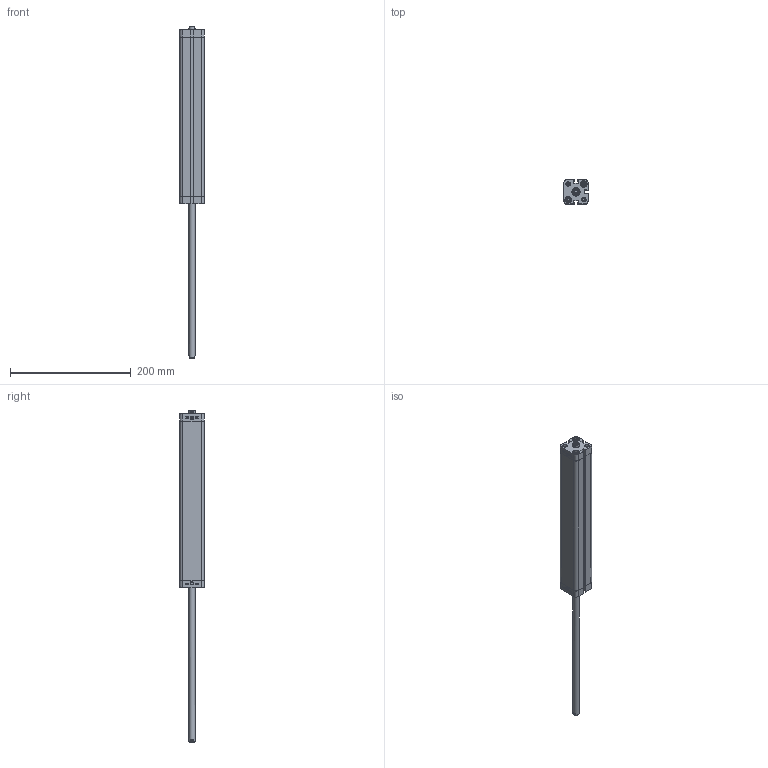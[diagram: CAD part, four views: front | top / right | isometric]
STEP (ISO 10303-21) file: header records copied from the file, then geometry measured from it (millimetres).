
FILE_DESCRIPTION(/* description */ ('Unknown'),/* implementation_level */ '2;1');
FILE_NAME(/* name */ 'ZBN 25_250',/* time_stamp */ '2025-01-28T07:36:17+01:00',/* author */ ('Unknown'),/* organization */ ('HAFNER Pneumatika Kft'),/* preprocessor_version */ 'ST-DEVELOPER v16.7',/* originating_system */ 'Solid Edge',/* authorisation */ 'Unknown');
FILE_SCHEMA (('AUTOMOTIVE_DESIGN {1 0 10303 214 3 1 1}'));
Length unit declared in the file: millimetre
Products named in the file (5): ZBN 25_250; Profilrohr; Kolbenstange; Kit_2; Kit_1
Assembly tree (5 placements, depth 2):
  ZBN 25_250
    Profilrohr
    Kolbenstange  x2
    Kit_2
    Kit_1
Bounding box: 40.3 x 40.3 x 551 mm (x, y, z)
Volume: 340568.2 mm3; surface area: 109429.2 mm2
Topology: 5 solids, 11 shells, 619 faces, 1621 edges, 1068 vertices
Faces by surface type: plane 310, cylinder 149, bspline 84, cone 56, torus 20
Full cylindrical faces by diameter (mm): 4.134 x10, 4.917 x4, 7.5 x4, 8 x8, 10 x2, 10.48 x2, 10.9 x4, 11.1 x4, 11.4 x2, 12 x2, 13.84 x2, 14 x2, 25 x3
Entity records: 22219 total; most frequent: CARTESIAN_POINT 4202, ORIENTED_EDGE 2902, DIRECTION 2698, EDGE_CURVE 1451, VERTEX_POINT 1015, AXIS2_PLACEMENT_3D 909, LINE 880, VECTOR 880
